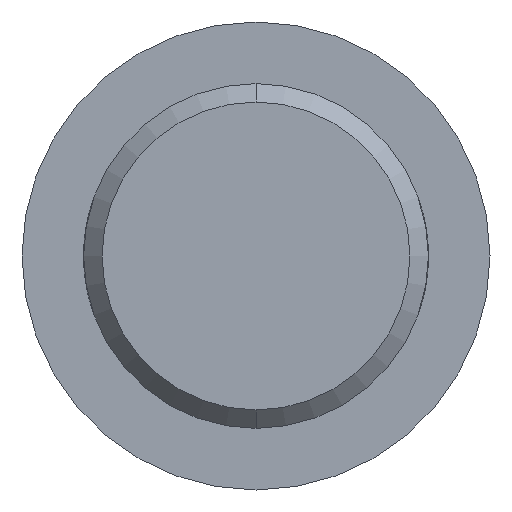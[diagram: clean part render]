
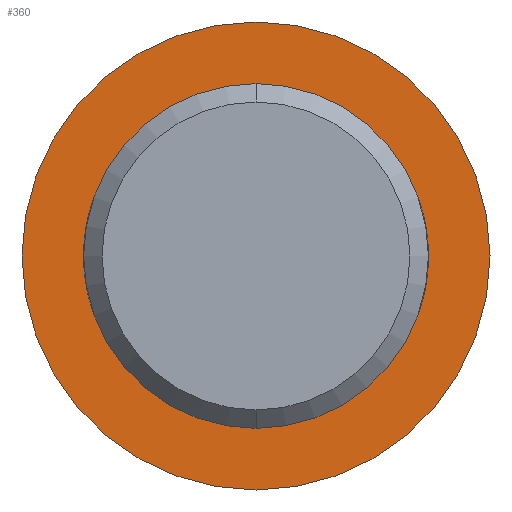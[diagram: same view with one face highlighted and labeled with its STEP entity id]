
A CAD part, front view. The second image highlights one B-rep face of the part: STEP entity #360.
In plain terms, the highlighted planar face has unit normal (0, -1, 0).
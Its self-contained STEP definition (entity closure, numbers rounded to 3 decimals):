
#16 = CARTESIAN_POINT ( 'NONE',  ( 0., 0., 0. ) ) ;
#42 = CARTESIAN_POINT ( 'NONE',  ( 0., 0., 0. ) ) ;
#55 = ORIENTED_EDGE ( 'NONE', *, *, #256, .F. ) ;
#57 = EDGE_CURVE ( 'NONE', #283, #374, #288, .T. ) ;
#61 = AXIS2_PLACEMENT_3D ( 'NONE', #42, #209, #365 ) ;
#92 = CIRCLE ( 'NONE', #349, 9.5 ) ;
#98 = DIRECTION ( 'NONE',  ( 0., -1., 0. ) ) ;
#115 = AXIS2_PLACEMENT_3D ( 'NONE', #379, #98, #335 ) ;
#120 = CARTESIAN_POINT ( 'NONE',  ( 0., 0., 0. ) ) ;
#131 = EDGE_CURVE ( 'NONE', #502, #455, #175, .T. ) ;
#164 = DIRECTION ( 'NONE',  ( 0., 0., 1. ) ) ;
#175 = CIRCLE ( 'NONE', #390, 7. ) ;
#184 = DIRECTION ( 'NONE',  ( 0., -1., 0. ) ) ;
#195 = CARTESIAN_POINT ( 'NONE',  ( 0., 0., 0. ) ) ;
#205 = CARTESIAN_POINT ( 'NONE',  ( 0., 0., -9.5 ) ) ;
#209 = DIRECTION ( 'NONE',  ( 0., 1., 0. ) ) ;
#223 = CARTESIAN_POINT ( 'NONE',  ( 0., 0., 9.5 ) ) ;
#256 = EDGE_CURVE ( 'NONE', #374, #283, #92, .T. ) ;
#276 = FACE_OUTER_BOUND ( 'NONE', #333, .T. ) ;
#278 = DIRECTION ( 'NONE',  ( 0., 0., 1. ) ) ;
#283 = VERTEX_POINT ( 'NONE', #205 ) ;
#288 = CIRCLE ( 'NONE', #361, 9.5 ) ;
#299 = CARTESIAN_POINT ( 'NONE',  ( 0., 0., -7. ) ) ;
#331 = EDGE_LOOP ( 'NONE', ( #500, #496 ) ) ;
#333 = EDGE_LOOP ( 'NONE', ( #412, #55 ) ) ;
#335 = DIRECTION ( 'NONE',  ( 0., 0., -1. ) ) ;
#340 = CIRCLE ( 'NONE', #115, 7. ) ;
#349 = AXIS2_PLACEMENT_3D ( 'NONE', #195, #434, #278 ) ;
#360 = ADVANCED_FACE ( 'NONE', ( #432, #276 ), #493, .F. ) ;
#361 = AXIS2_PLACEMENT_3D ( 'NONE', #120, #527, #164 ) ;
#365 = DIRECTION ( 'NONE',  ( 0., 0., 1. ) ) ;
#374 = VERTEX_POINT ( 'NONE', #223 ) ;
#379 = CARTESIAN_POINT ( 'NONE',  ( 0., 0., 0. ) ) ;
#390 = AXIS2_PLACEMENT_3D ( 'NONE', #16, #184, #505 ) ;
#412 = ORIENTED_EDGE ( 'NONE', *, *, #57, .F. ) ;
#414 = CARTESIAN_POINT ( 'NONE',  ( 0., 0., 7. ) ) ;
#432 = FACE_BOUND ( 'NONE', #331, .T. ) ;
#434 = DIRECTION ( 'NONE',  ( 0., 1., 0. ) ) ;
#455 = VERTEX_POINT ( 'NONE', #414 ) ;
#464 = EDGE_CURVE ( 'NONE', #455, #502, #340, .T. ) ;
#493 = PLANE ( 'NONE',  #61 ) ;
#496 = ORIENTED_EDGE ( 'NONE', *, *, #131, .F. ) ;
#500 = ORIENTED_EDGE ( 'NONE', *, *, #464, .F. ) ;
#502 = VERTEX_POINT ( 'NONE', #299 ) ;
#505 = DIRECTION ( 'NONE',  ( 0., 0., -1. ) ) ;
#527 = DIRECTION ( 'NONE',  ( 0., 1., 0. ) ) ;
